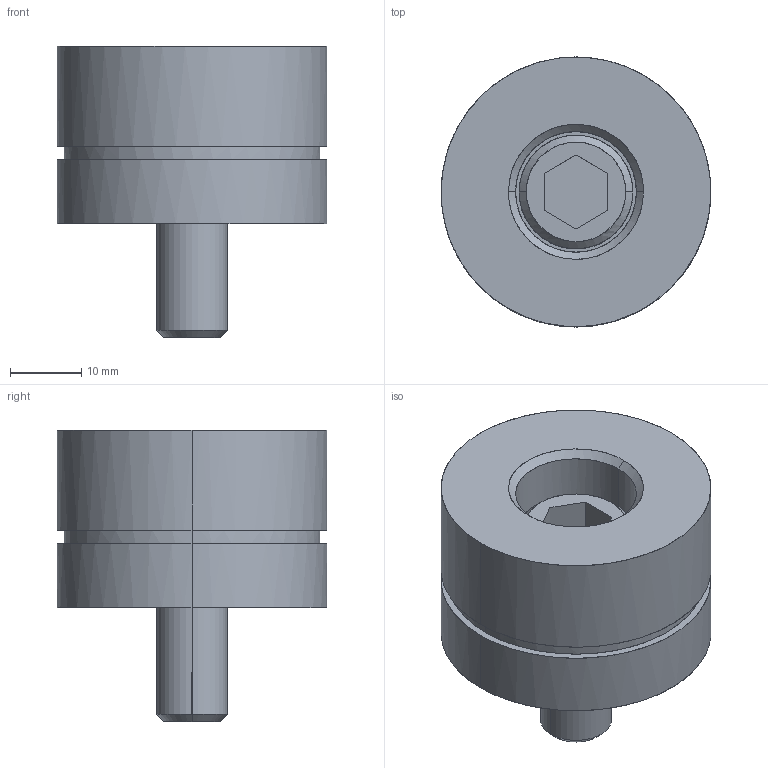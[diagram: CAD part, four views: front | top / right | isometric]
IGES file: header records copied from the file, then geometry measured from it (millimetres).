
Global section: file name: E:\UnigraphicsGraphicData\MISUMI_PRESS-PARTS\IGES\3d_sbn38-25-r_00582_r00.igs; native system: NX V5.0; preprocessor: UGS NX IGES V5.0; author: MISUMI; date: 20110105.162427; units: millimetre
Bounding box: 38 x 38 x 41 mm (x, y, z)
Surface area: 8215.1 mm2 (no closed solid volume)
Topology: 0 solids, 0 shells, 35 faces, 276 edges, 276 vertices
Faces by surface type: bspline 35
